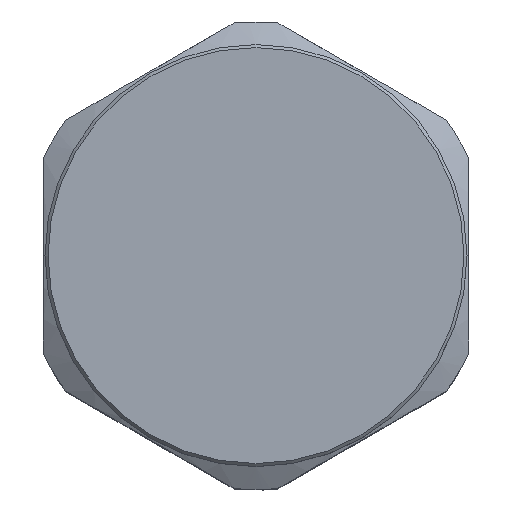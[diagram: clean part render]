
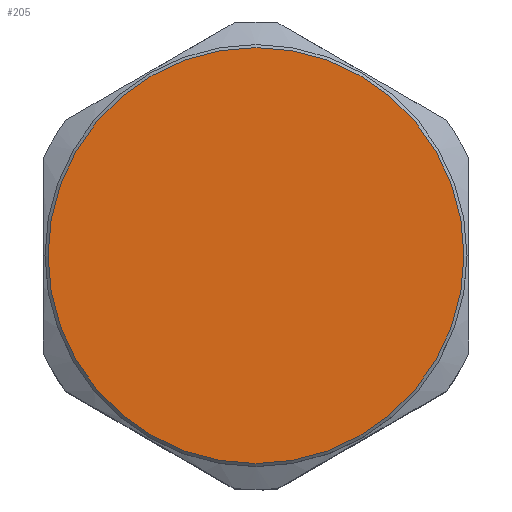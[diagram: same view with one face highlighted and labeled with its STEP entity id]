
A CAD part, top view. The second image highlights one B-rep face of the part: STEP entity #205.
In plain terms, the highlighted planar face has unit normal (0, 0, 1).
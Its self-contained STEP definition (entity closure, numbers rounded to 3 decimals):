
#189=CARTESIAN_POINT('',(0.,0.,100.));
#190=DIRECTION('',(0.0,0.0,1.0));
#191=DIRECTION('',(1.0,0.0,0.0));
#192=AXIS2_PLACEMENT_3D('',#189,#190,#191);
#193=PLANE('',#192);
#194=CARTESIAN_POINT('',(34.25,0.,100.));
#195=VERTEX_POINT('',#194);
#196=CARTESIAN_POINT('',(0.,0.,100.));
#197=DIRECTION('',(0.0,0.0,-1.0));
#198=DIRECTION('',(-1.0,0.0,0.0));
#199=AXIS2_PLACEMENT_3D('',#196,#197,#198);
#200=CIRCLE('',#199,34.25);
#201=EDGE_CURVE('',#195,#195,#200,.T.);
#202=ORIENTED_EDGE('',*,*,#201,.F.);
#203=EDGE_LOOP('',(#202));
#204=FACE_OUTER_BOUND('',#203,.T.);
#205=ADVANCED_FACE('',(#204),#193,.T.);
